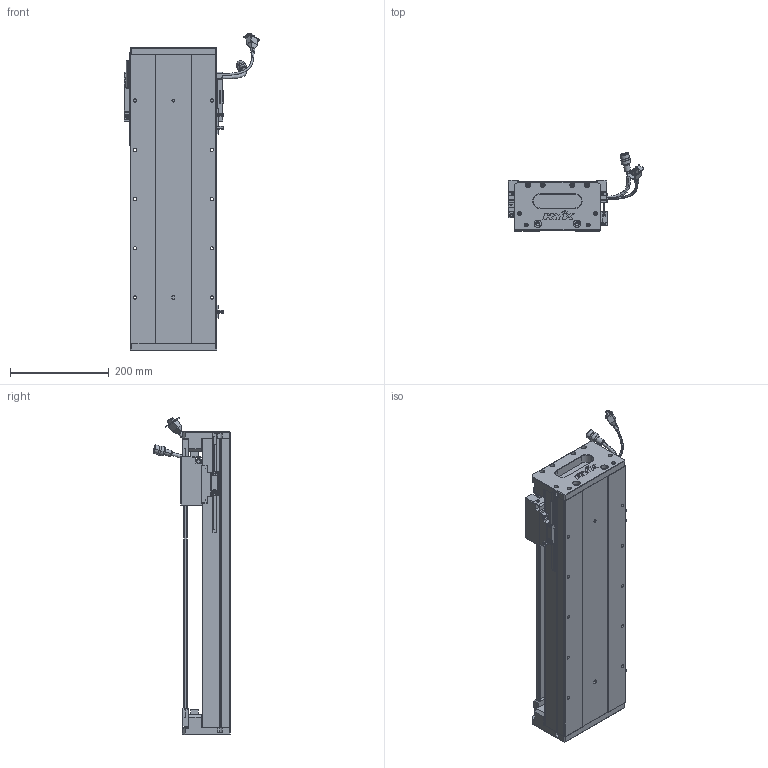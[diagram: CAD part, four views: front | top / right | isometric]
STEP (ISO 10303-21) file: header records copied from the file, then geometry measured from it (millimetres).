
FILE_DESCRIPTION (( 'STEP AP203' ), '1' );
FILE_NAME ('Z1-RY170D-1-L500-B-K.SLDASM_0400.step', '2021-05-17T08:51:28', ( '盈信电脑' ), ( '东莞市道滘镇水果街19号' ), 'SwSTEP 2.0', 'SolidWorks 2016', '' );
FILE_SCHEMA (( 'CONFIG_CONTROL_DESIGN' ));
Length unit declared in the file: millimetre
Products named in the file (36): LABEL-Part-1; Z-170詩湍傷裔啣; SEAL; HARNESS-Part-2; RY170直线电机感应器672光电感应片; SCREW-M1.6; HOLDER0; 榋妏寠巭燃_暯_M2_2; PBU_SHEET; COVER-Part-1; COVER; HARNESS-Part-1; SHIELDPLATE; PSLH080_PSLF2; Z1-RY170D-1-L500-B-K.SLDASM_0400; HARNESS; Z-RY170詩湍狟揤裔; SCREW-M1.6-1; SCALE-Part-2; SCREW-M1.7-1; 170-Z-臏賑輸盄裔(21遴); SCREW-M1.7; 140蚥薯蝶輸; LABEL; 140雄赽晤鎢ん堤盄; SCREW-M1.6-3; Z1-RY170-L500耀郪菁釱_0400; SEAL-Part-1; SCALE; Z1-RY170-L500詩湍145mm遵_0400; SCALE-Part-1; 覜茼ん672; Z1-RY170臏賑輸(21遴); Z-RY170詩湍奻揤裔; 080黍杅芛假蚾釱21遴; SCREW-M1.6-2
Assembly tree (41 placements, depth 4):
  Z1-RY170D-1-L500-B-K.SLDASM_0400
    Z1-RY170-L500耀郪菁釱_0400
    RY170直线电机感应器672光电感应片
    Z1-RY170臏賑輸(21遴)
    覜茼ん672  x3
    PSLH080_PSLF2
      SCALE
        SCALE-Part-1
        SCALE-Part-2
      HARNESS
        HARNESS-Part-1
        HARNESS-Part-2
      LABEL
        LABEL-Part-1
      COVER
        COVER-Part-1
      SEAL
        SEAL-Part-1
      榋妏寠巭燃_暯_M2_2
      SHIELDPLATE
      SCREW-M1.7
      SCREW-M1.7-1
      PBU_SHEET
      SCREW-M1.6
      SCREW-M1.6-1
      SCREW-M1.6-2
      SCREW-M1.6-3
      HOLDER0
    080黍杅芛假蚾釱21遴
    Z1-RY170-L500詩湍145mm遵_0400
    Z-170詩湍傷裔啣  x2
    Z-RY170詩湍奻揤裔  x2
    Z-RY170詩湍狟揤裔  x2
    140蚥薯蝶輸  x2
    170-Z-臏賑輸盄裔(21遴)
    140雄赽晤鎢ん堤盄
Bounding box: 275.34 x 158.11 x 643.73 mm (x, y, z)
Volume: 3885678.5 mm3; surface area: 953673.2 mm2
Topology: 36 solids, 36 shells, 2610 faces, 6837 edges, 4311 vertices
Faces by surface type: cylinder 1104, plane 1088, cone 296, torus 69, bspline 53
Entity records: 72905 total; most frequent: CARTESIAN_POINT 17368, DIRECTION 10863, ORIENTED_EDGE 10654, EDGE_CURVE 5327, AXIS2_PLACEMENT_3D 3940, VERTEX_POINT 3429, LINE 2983, VECTOR 2983
